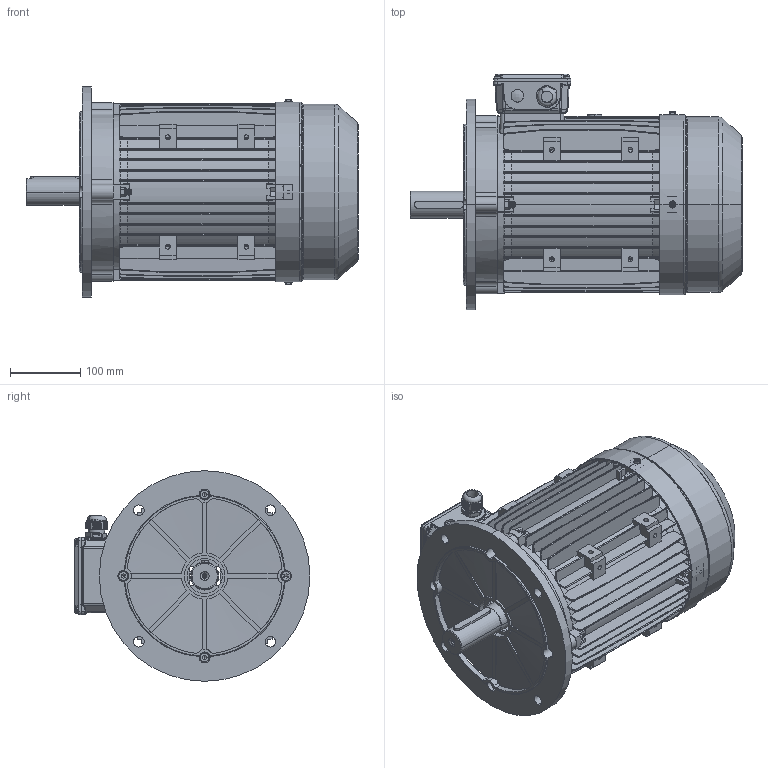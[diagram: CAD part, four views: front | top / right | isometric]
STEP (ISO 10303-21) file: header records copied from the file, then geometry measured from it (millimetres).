
FILE_DESCRIPTION (( 'STEP AP203' ), '1' );
FILE_NAME ('IE1 132M assembly B5.STEP', '2017-08-07T02:21:52', ( 'user' ), ( 'china' ), 'SwSTEP 2.0', 'SolidWorks 2016', '' );
FILE_SCHEMA (( 'CONFIG_CONTROL_DESIGN' ));
Length unit declared in the file: millimetre
Products named in the file (15): M63-132諉盄碟裔(陔)_CIRO112-132; M132傷裔B3_NonDrive; M132瑞欶_117; M63-132諉盄碟(陔)_112-132 M25; MS132 綴裔瑞欶郪磁; IE1 132M assembly B5; GB-T 70.1-2000 M8_40; M132傷裔B5; M132-Shaft drive end_DNF; GB-T 29.2-1988 M4_10; GB-T 41-2000 M8; M63-132諉盄碟釱(陔)_CIRO112-132; M25 cable gland; M132儂褲_M; GB-T 29.2-1988 M5鞠褒坋趼湍菜_10
Assembly tree (25 placements, depth 3):
  IE1 132M assembly B5
    M132儂褲_M
    M132-Shaft drive end_DNF
    M63-132諉盄碟(陔)_112-132 M25
      M63-132諉盄碟釱(陔)_CIRO112-132
      M63-132諉盄碟裔(陔)_CIRO112-132
      GB-T 29.2-1988 M4_10  x4
      M25 cable gland
    MS132 綴裔瑞欶郪磁
      M132傷裔B3_NonDrive
      M132瑞欶_117
      GB-T 29.2-1988 M5鞠褒坋趼湍菜_10  x3
    GB-T 41-2000 M8  x4
    GB-T 70.1-2000 M8_40  x4
    M132傷裔B5
Bounding box: 473 x 336 x 300 mm (x, y, z)
Volume: 2825866 mm3; surface area: 1445181.3 mm2
Topology: 24 solids, 24 shells, 5054 faces, 13241 edges, 8175 vertices
Faces by surface type: plane 1955, cylinder 1323, cone 892, bspline 674, torus 138, sphere 72
Entity records: 164776 total; most frequent: CARTESIAN_POINT 66657, ORIENTED_EDGE 21486, DIRECTION 18124, EDGE_CURVE 10743, VERTEX_POINT 6755, AXIS2_PLACEMENT_3D 6185, LINE 5754, VECTOR 5754
